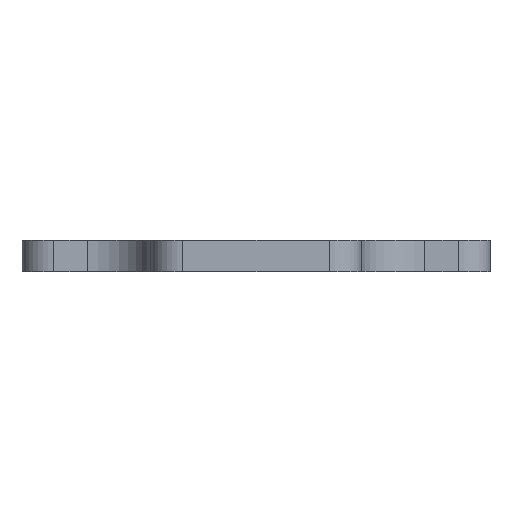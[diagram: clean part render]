
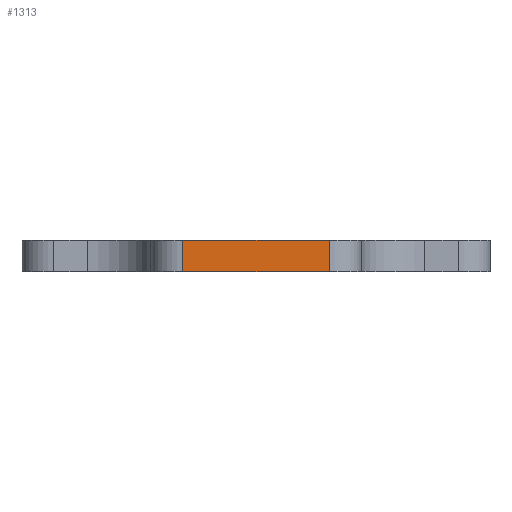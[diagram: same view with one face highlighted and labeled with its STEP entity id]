
A CAD part, left-side view. The second image highlights one B-rep face of the part: STEP entity #1313.
In plain terms, the highlighted planar face has unit normal (-1, 0, 0).
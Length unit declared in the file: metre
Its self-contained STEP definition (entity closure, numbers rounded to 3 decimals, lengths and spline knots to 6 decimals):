
#172=ORIENTED_EDGE('',*,*,#556,.T.);
#173=ORIENTED_EDGE('',*,*,#557,.T.);
#174=ORIENTED_EDGE('',*,*,#558,.F.);
#175=ORIENTED_EDGE('',*,*,#559,.T.);
#556=EDGE_CURVE('',#748,#749,#884,.T.);
#557=EDGE_CURVE('',#749,#750,#885,.T.);
#558=EDGE_CURVE('',#751,#750,#886,.T.);
#559=EDGE_CURVE('',#751,#748,#887,.F.);
#748=VERTEX_POINT('',#2035);
#749=VERTEX_POINT('',#2036);
#750=VERTEX_POINT('',#2038);
#751=VERTEX_POINT('',#2040);
#884=LINE('',#2034,#988);
#885=LINE('',#2037,#989);
#886=LINE('',#2039,#990);
#887=LINE('',#2041,#991);
#988=VECTOR('',#1593,1.);
#989=VECTOR('',#1594,1.);
#990=VECTOR('',#1595,1.);
#991=VECTOR('',#1596,1.);
#1071=EDGE_LOOP('',(#172,#173,#174,#175));
#1179=FACE_BOUND('',#1071,.T.);
#1287=PLANE('',#1396);
#1313=ADVANCED_FACE('',(#1179),#1287,.T.);
#1396=AXIS2_PLACEMENT_3D('',#2033,#1591,#1592);
#1591=DIRECTION('',(-1.,0.,0.));
#1592=DIRECTION('',(0.,0.,1.));
#1593=DIRECTION('',(0.,-1.,0.));
#1594=DIRECTION('',(0.,0.,1.));
#1595=DIRECTION('',(0.,-1.,0.));
#1596=DIRECTION('',(0.,0.,1.));
#2033=CARTESIAN_POINT('',(-0.046644,0.,0.046644));
#2034=CARTESIAN_POINT('',(-0.046644,0.,0.046644));
#2035=CARTESIAN_POINT('',(-0.046644,0.014605,0.046644));
#2036=CARTESIAN_POINT('',(-0.046644,-0.014605,0.046644));
#2037=CARTESIAN_POINT('',(-0.046644,-0.014605,0.052994));
#2038=CARTESIAN_POINT('',(-0.046644,-0.014605,0.052994));
#2039=CARTESIAN_POINT('',(-0.046644,0.,0.052994));
#2040=CARTESIAN_POINT('',(-0.046644,0.014605,0.052994));
#2041=CARTESIAN_POINT('',(-0.046644,0.014605,0.046644));
